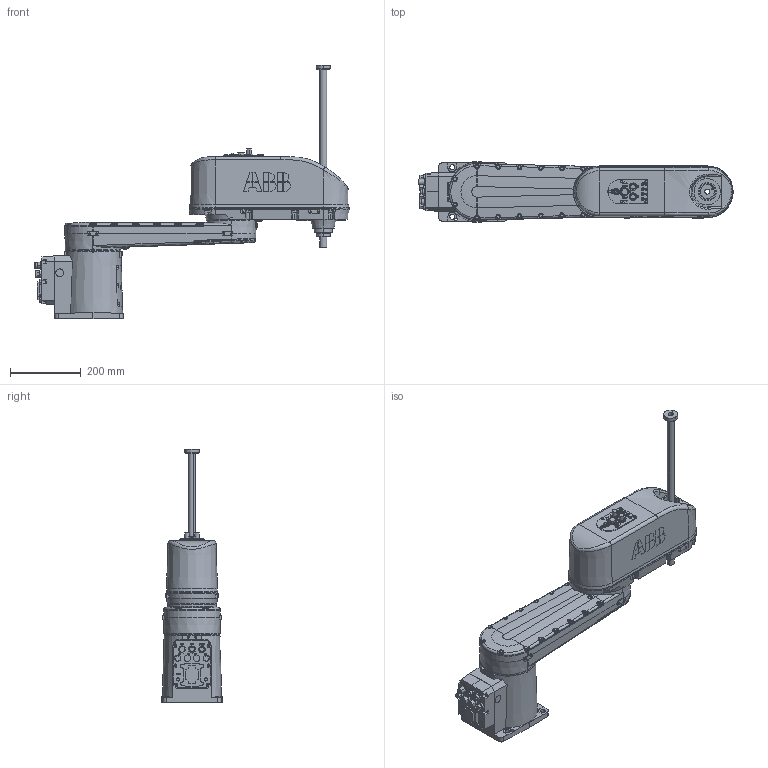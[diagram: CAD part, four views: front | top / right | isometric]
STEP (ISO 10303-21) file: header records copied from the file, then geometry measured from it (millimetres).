
FILE_DESCRIPTION (( 'STEP AP214' ), '1' );
FILE_NAME ('IRB920T_6kg-650-300-STD_OmniCore_rev00_Assembly.step', '2021-08-23T03:30:37', ( '' ), ( '' ), 'SwSTEP 2.0', 'SolidWorks 2018', '' );
FILE_SCHEMA (( 'AUTOMOTIVE_DESIGN' ));
Length unit declared in the file: millimetre
Products named in the file (5): IRB920T_6kg-650-300-STD_OmniCore_rev00_Assembly; IRB920T_6kg-650-300-STD_OmniCore_rev00_LINK3_CAD; IRB920T_6kg-650-300-STD_OmniCore_rev00_LINK0_CAD; IRB920T_6kg-650-300-STD_OmniCore_rev00_LINK2_CAD; IRB920T_6kg-650-300-STD_OmniCore_rev00_LINK1_CAD
Assembly tree (4 placements, depth 2):
  IRB920T_6kg-650-300-STD_OmniCore_rev00_Assembly
    IRB920T_6kg-650-300-STD_OmniCore_rev00_LINK0_CAD
    IRB920T_6kg-650-300-STD_OmniCore_rev00_LINK1_CAD
    IRB920T_6kg-650-300-STD_OmniCore_rev00_LINK2_CAD
    IRB920T_6kg-650-300-STD_OmniCore_rev00_LINK3_CAD
Bounding box: 887 x 170 x 716.5 mm (x, y, z)
Volume: 20128831.6 mm3; surface area: 841381.7 mm2
Topology: 4 solids, 6 shells, 2221 faces, 5695 edges, 3696 vertices
Faces by surface type: plane 1204, cylinder 388, bspline 380, cone 235, torus 12, sphere 2
Entity records: 90151 total; most frequent: CARTESIAN_POINT 36846, ORIENTED_EDGE 11248, DIRECTION 8871, EDGE_CURVE 5624, VERTEX_POINT 3696, VECTOR 3367, LINE 3367, AXIS2_PLACEMENT_3D 2752
